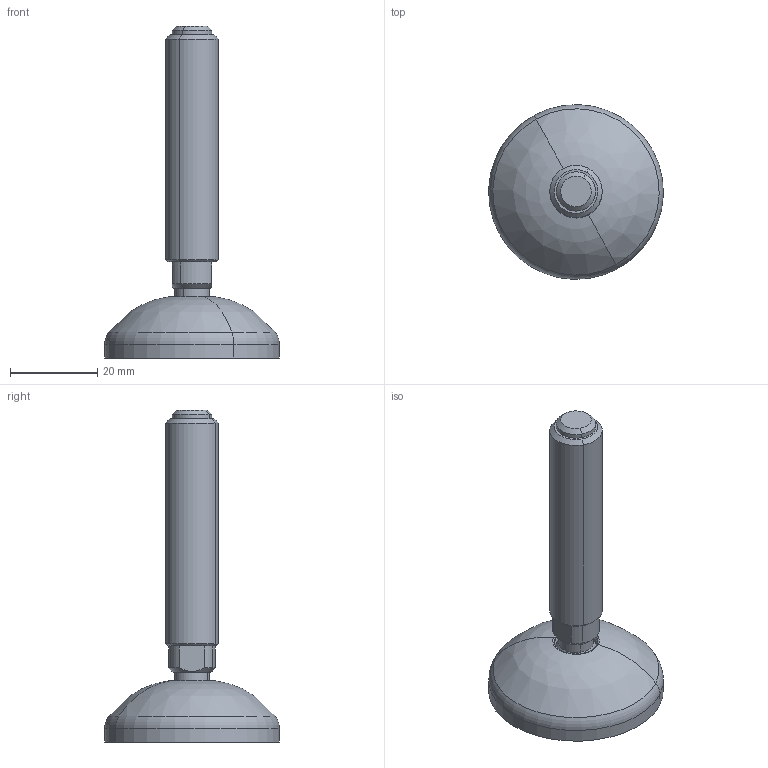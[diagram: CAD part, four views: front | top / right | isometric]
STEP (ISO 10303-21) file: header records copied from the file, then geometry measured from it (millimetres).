
FILE_DESCRIPTION(('CATIA V5 STEP Exchange'),'2;1');
FILE_NAME('X:\CODICI MOVEX\3D per clienti\3D definitivi\Part 900\P90201_01.stp','2016-09-30T10:01:06+00:00',('none'),('none'),'Version 5-6 Release 2012','CATIA V5 STEP AP203','none');
FILE_SCHEMA(('CONFIG_CONTROL_DESIGN'));
Length unit declared in the file: millimetre
Products named in the file (1): P90201_01
Assembly tree (2 placements, depth 2):
  P90201_01
    #58
    #19565
Bounding box: 39.99 x 39.99 x 76 mm (x, y, z)
Volume: 14854.3 mm3; surface area: 9420.2 mm2
Topology: 2 solids, 4 shells, 558 faces, 1592 edges, 1045 vertices
Faces by surface type: plane 463, torus 30, cylinder 22, revolution 19, sphere 16, cone 8
Entity records: 20208 total; most frequent: CARTESIAN_POINT 7944, ORIENTED_EDGE 3172, EDGE_CURVE 1586, DIRECTION 1542, VERTEX_POINT 1045, B_SPLINE_CURVE_WITH_KNOTS 990, AXIS2_PLACEMENT_3D 610, EDGE_LOOP 569
